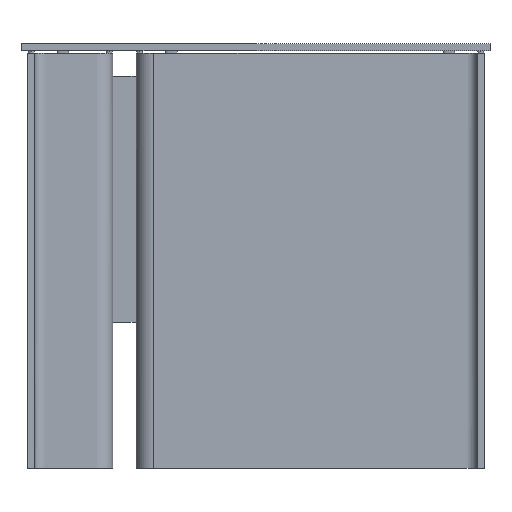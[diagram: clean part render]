
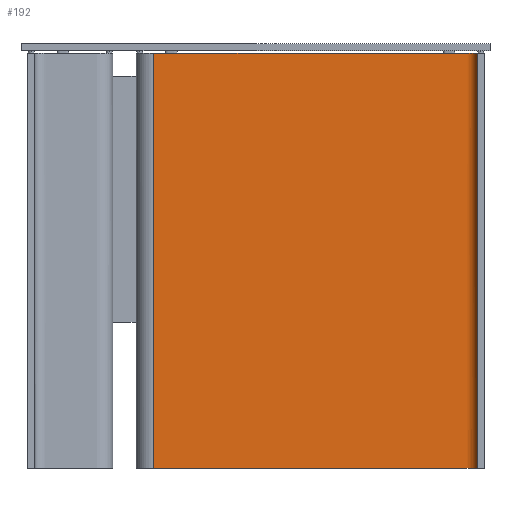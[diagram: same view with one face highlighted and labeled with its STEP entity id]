
A CAD part, left-side view. The second image highlights one B-rep face of the part: STEP entity #192.
In plain terms, the highlighted free-form (B-spline) face has degree [2, 1] with [7, 2] control points.
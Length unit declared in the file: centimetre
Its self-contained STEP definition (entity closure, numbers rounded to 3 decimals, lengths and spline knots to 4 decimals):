
#29=(
BOUNDED_SURFACE()
B_SPLINE_SURFACE(2,1,((#1819,#1820),(#1821,#1822),(#1823,#1824),(#1825,#1826),
(#1827,#1828),(#1829,#1830),(#1831,#1832)),.UNSPECIFIED.,.F.,.F.,.F.)
B_SPLINE_SURFACE_WITH_KNOTS((3,2,2,3),(2,2),(-56.5,-3.,-0.1726,
5.8274),(0.,71.),.UNSPECIFIED.)
GEOMETRIC_REPRESENTATION_ITEM()
RATIONAL_B_SPLINE_SURFACE(((1.,1.),(1.,1.),(1.,1.),(0.707,0.707),
(1.,1.),(1.,1.),(1.,1.)))
REPRESENTATION_ITEM($)
SURFACE()
);
#75=(
BOUNDED_CURVE()
B_SPLINE_CURVE(2,(#1755,#1756,#1757,#1758,#1759,#1760,#1761),.UNSPECIFIED.,
.F.,.F.)
B_SPLINE_CURVE_WITH_KNOTS((3,2,2,3),(-56.5,-3.,-0.1726,5.8274),
.UNSPECIFIED.)
CURVE()
GEOMETRIC_REPRESENTATION_ITEM()
RATIONAL_B_SPLINE_CURVE((1.,1.,1.,0.707,1.,1.,1.))
REPRESENTATION_ITEM($)
);
#79=(
BOUNDED_CURVE()
B_SPLINE_CURVE(2,(#1789,#1790,#1791,#1792,#1793,#1794,#1795),.UNSPECIFIED.,
.F.,.F.)
B_SPLINE_CURVE_WITH_KNOTS((3,2,2,3),(-5.8274,0.1726,
3.,56.5),.UNSPECIFIED.)
CURVE()
GEOMETRIC_REPRESENTATION_ITEM()
RATIONAL_B_SPLINE_CURVE((1.,1.,1.,0.707,1.,1.,1.))
REPRESENTATION_ITEM($)
);
#192=ADVANCED_FACE($,(#284),#29,.T.);
#284=FACE_OUTER_BOUND($,#376,.T.);
#376=EDGE_LOOP($,(#522,#523,#524,#525));
#522=ORIENTED_EDGE($,*,*,#811,.T.);
#523=ORIENTED_EDGE($,*,*,#807,.T.);
#524=ORIENTED_EDGE($,*,*,#801,.F.);
#525=ORIENTED_EDGE($,*,*,#800,.T.);
#800=EDGE_CURVE($,#960,#965,#75,.T.);
#801=EDGE_CURVE($,#960,#961,#1128,.T.);
#807=EDGE_CURVE($,#966,#961,#79,.T.);
#811=EDGE_CURVE($,#965,#966,#1133,.T.);
#960=VERTEX_POINT($,#1867);
#961=VERTEX_POINT($,#1868);
#965=VERTEX_POINT($,#1872);
#966=VERTEX_POINT($,#1873);
#1128=B_SPLINE_CURVE_WITH_KNOTS($,1,(#1762,#1763),.UNSPECIFIED.,.F.,.F.,
(2,2),(0.,71.),.UNSPECIFIED.);
#1133=B_SPLINE_CURVE_WITH_KNOTS($,1,(#1811,#1812),.UNSPECIFIED.,.F.,.F.,
(2,2),(0.,71.),.UNSPECIFIED.);
#1755=CARTESIAN_POINT($,(8.8,57.5,0.));
#1756=CARTESIAN_POINT($,(8.8,30.75,0.));
#1757=CARTESIAN_POINT($,(8.8,4.,0.));
#1758=CARTESIAN_POINT($,(8.8,2.2,0.));
#1759=CARTESIAN_POINT($,(7.,2.2,0.));
#1760=CARTESIAN_POINT($,(4.,2.2,0.));
#1761=CARTESIAN_POINT($,(1.,2.2,0.));
#1762=CARTESIAN_POINT($,(8.8,57.5,0.));
#1763=CARTESIAN_POINT($,(8.8,57.5,71.));
#1789=CARTESIAN_POINT($,(1.,2.2,71.));
#1790=CARTESIAN_POINT($,(4.,2.2,71.));
#1791=CARTESIAN_POINT($,(7.,2.2,71.));
#1792=CARTESIAN_POINT($,(8.8,2.2,71.));
#1793=CARTESIAN_POINT($,(8.8,4.,71.));
#1794=CARTESIAN_POINT($,(8.8,30.75,71.));
#1795=CARTESIAN_POINT($,(8.8,57.5,71.));
#1811=CARTESIAN_POINT($,(1.,2.2,0.));
#1812=CARTESIAN_POINT($,(1.,2.2,71.));
#1819=CARTESIAN_POINT($,(8.8,57.5,0.));
#1820=CARTESIAN_POINT($,(8.8,57.5,71.));
#1821=CARTESIAN_POINT($,(8.8,30.75,0.));
#1822=CARTESIAN_POINT($,(8.8,30.75,71.));
#1823=CARTESIAN_POINT($,(8.8,4.,0.));
#1824=CARTESIAN_POINT($,(8.8,4.,71.));
#1825=CARTESIAN_POINT($,(8.8,2.2,0.));
#1826=CARTESIAN_POINT($,(8.8,2.2,71.));
#1827=CARTESIAN_POINT($,(7.,2.2,0.));
#1828=CARTESIAN_POINT($,(7.,2.2,71.));
#1829=CARTESIAN_POINT($,(4.,2.2,0.));
#1830=CARTESIAN_POINT($,(4.,2.2,71.));
#1831=CARTESIAN_POINT($,(1.,2.2,0.));
#1832=CARTESIAN_POINT($,(1.,2.2,71.));
#1867=CARTESIAN_POINT($,(8.8,57.5,0.));
#1868=CARTESIAN_POINT($,(8.8,57.5,71.));
#1872=CARTESIAN_POINT($,(1.,2.2,0.));
#1873=CARTESIAN_POINT($,(1.,2.2,71.));
